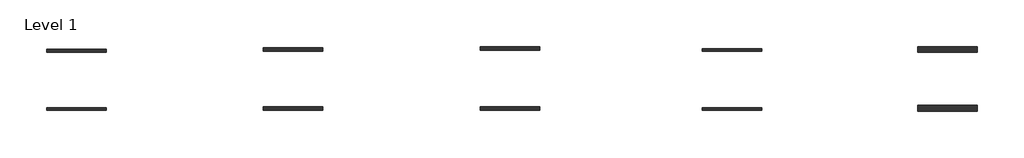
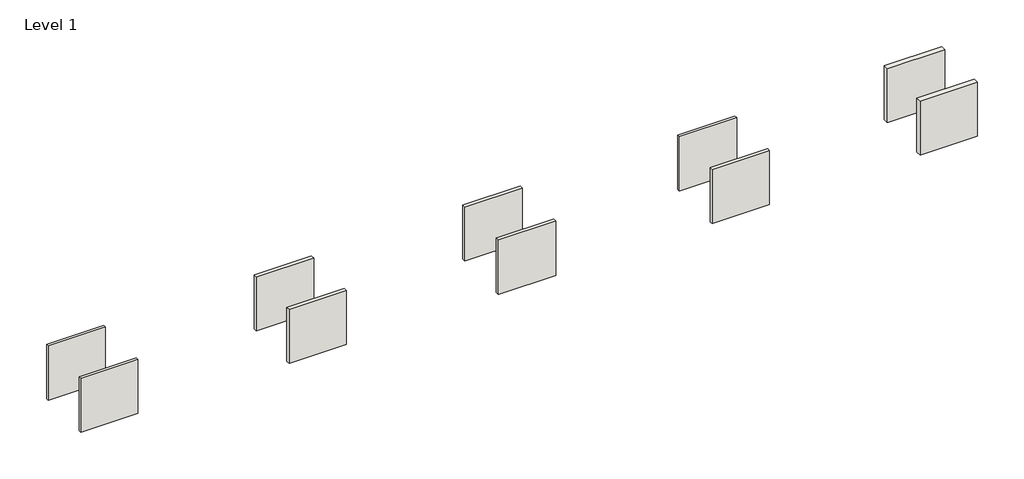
# One storey: 10 walls.
"""IFC4 building model written with IfcOpenShell, lengths in millimetres."""

from ifc_helpers import new_model, si_unit, origin, origin_with_axes, place, context, project, spatial, polyline, outline, extrude, element, save

model = new_model("IFC4")

# Units and contexts
model_context = context("Model", 3, world=origin())
ifc_project = project(units=[si_unit("LENGTHUNIT", "METRE", prefix="MILLI")], contexts=[model_context])

# Site, building, storey
site = spatial("IfcSite", under=ifc_project)
building = spatial("IfcBuilding", under=site)
storey = spatial("IfcBuildingStorey", under=building, Name="Level 1", Elevation=0.0)

# Walls
placement = place(None, origin())
element("IfcWall", 1, ObjectType="YU RY145 600 EH/AA", at=placement, inside=storey, context=model_context, shape_type="SweptSolid", body=[
    extrude(outline(polyline([(-31227.1721504, -13252.1481079), (-35227.1721504, -13252.1481079), (-35227.1721504, -13072.1481022), (-31227.1721504, -13072.1481022), (-31227.1721504, -13252.1481079)])), origin_with_axes(), (0.0, 0.0, 1.0), 4000.0),
])
element("IfcWall", 2, ObjectType="YU RY145 600 WB/AA", at=placement, inside=storey, context=model_context, shape_type="SweptSolid", body=[
    extrude(outline(polyline([(-31227.1721504, -17178.3612628), (-35227.1721504, -17178.3612628), (-35227.1721504, -16998.3612571), (-31227.1721504, -16998.3612571), (-31227.1721504, -17178.3612628)])), origin_with_axes(), (0.0, 0.0, 1.0), 4000.0),
])
element("IfcWall", 3, ObjectType="YU RY145/Z70 600 EH/AA", at=placement, inside=storey, context=model_context, shape_type="SweptSolid", body=[
    extrude(outline(polyline([(-16673.610149, -13212.3990278), (-20673.610149, -13212.3990278), (-20673.610149, -12962.3990198), (-16673.610149, -12962.3990198), (-16673.610149, -13212.3990278)])), origin_with_axes(), (0.0, 0.0, 1.0), 4000.0),
])
element("IfcWall", 4, ObjectType="YU RY145/Z70 600 WB/AA", at=placement, inside=storey, context=model_context, shape_type="SweptSolid", body=[
    extrude(outline(polyline([(-16673.610149, -17178.3612628), (-20673.610149, -17178.3612628), (-20673.610149, -16928.3612548), (-16673.610149, -16928.3612548), (-16673.610149, -17178.3612628)])), origin_with_axes(), (0.0, 0.0, 1.0), 4000.0),
])
element("IfcWall", 5, ObjectType="YU RY195/Z70 600 EH/AA", at=placement, inside=storey, context=model_context, shape_type="SweptSolid", body=[
    extrude(outline(polyline([(12854.2182795, -13212.3990278), (8854.2182795, -13212.3990278), (8854.2182795, -13012.3990214), (12854.2182795, -13012.3990214), (12854.2182795, -13212.3990278)])), origin_with_axes(), (0.0, 0.0, 1.0), 4000.0),
])
element("IfcWall", 6, ObjectType="YU RY195/Z70 600 WB/AA", at=placement, inside=storey, context=model_context, shape_type="SweptSolid", body=[
    extrude(outline(polyline([(12854.2182795, -17178.3612628), (8854.2182795, -17178.3612628), (8854.2182795, -16978.3612564), (12854.2182795, -16978.3612564), (12854.2182795, -17178.3612628)])), origin_with_axes(), (0.0, 0.0, 1.0), 4000.0),
])
element("IfcWall", 7, ObjectType="YU RY250/Z95 600 EH/AA", at=placement, inside=storey, context=model_context, shape_type="SweptSolid", body=[
    extrude(outline(polyline([(27346.1049359, -13268.8911415), (23346.1049359, -13268.8911415), (23346.1049359, -12888.8911293), (27346.1049359, -12888.8911293), (27346.1049359, -13268.8911415)])), origin_with_axes(), (0.0, 0.0, 1.0), 4000.0),
])
element("IfcWall", 8, ObjectType="YU RY250/Z95 600 WB/AA", at=placement, inside=storey, context=model_context, shape_type="SweptSolid", body=[
    extrude(outline(polyline([(27346.1049359, -17220.686648), (23346.1049359, -17220.686648), (23346.1049359, -16840.6866358), (27346.1049359, -16840.6866358), (27346.1049359, -17220.686648)])), origin_with_axes(), (0.0, 0.0, 1.0), 4000.0),
])
element("IfcWall", 9, ObjectType="YU RY145/Z70 600 EH/AA", at=placement, inside=storey, context=model_context, shape_type="SweptSolid", body=[
    extrude(outline(polyline([(-2069.6280847, -13130.6054819), (-6069.6280847, -13130.6054819), (-6069.6280847, -12880.6054739), (-2069.6280847, -12880.6054739), (-2069.6280847, -13130.6054819)])), origin_with_axes(), (0.0, 0.0, 1.0), 4000.0),
])
element("IfcWall", 10, ObjectType="YU RY145/Z70 600 WB/AA", at=placement, inside=storey, context=model_context, shape_type="SweptSolid", body=[
    extrude(outline(polyline([(-2069.6280847, -17178.3612628), (-6069.6280847, -17178.3612628), (-6069.6280847, -16928.3612548), (-2069.6280847, -16928.3612548), (-2069.6280847, -17178.3612628)])), origin_with_axes(), (0.0, 0.0, 1.0), 4000.0),
])

save(model, "model.ifc")
